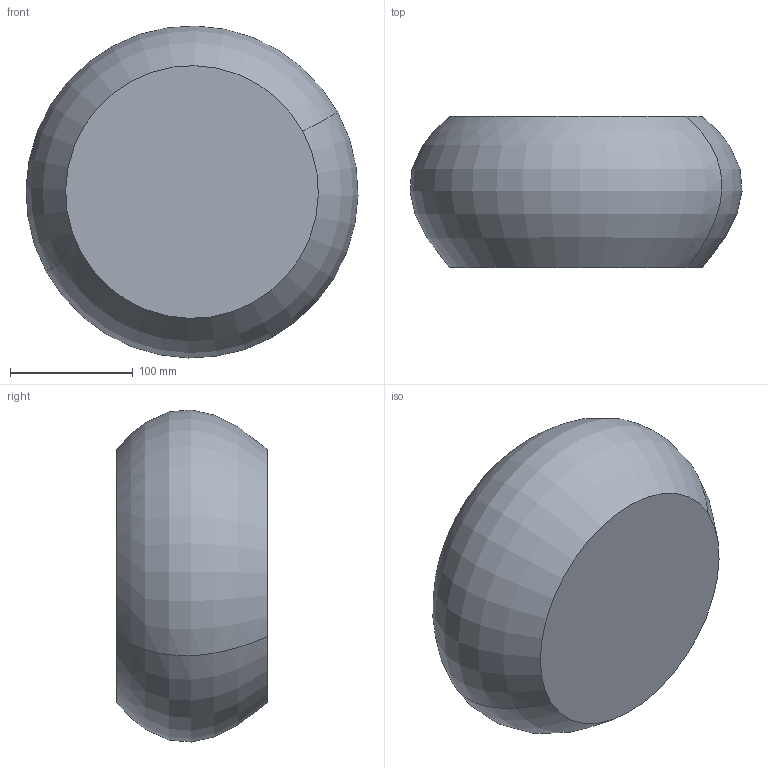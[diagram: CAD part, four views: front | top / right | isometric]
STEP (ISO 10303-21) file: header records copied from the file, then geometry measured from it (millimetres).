
FILE_DESCRIPTION(('CATIA V5 STEP Exchange'),'2;1');
FILE_NAME('C:\_Andres\UNIVERSIDAD\IQS\ASIGNATURAS\DAO\EXF\EXF-15161c\1original\Martínez_Perelló_Ej10-decora_v13.stp','2016-03-04T22:24:12+00:00',('none'),('none'),'CATIA Version 5 Release 20 SP 1 (IN-10)','CATIA V5 STEP AP203','none');
FILE_SCHEMA(('CONFIG_CONTROL_DESIGN'));
Length unit declared in the file: millimetre
Products named in the file (1): Martínez_Perelló_Ej10-decora_v13
Bounding box: 270.6 x 123 x 270.6 mm (x, y, z)
Volume: 6041028.3 mm3; surface area: 177782.6 mm2
Topology: 1 solids, 1 shells, 4 faces, 6 edges, 4 vertices
Faces by surface type: revolution 2, plane 2
Entity records: 166 total; most frequent: CARTESIAN_POINT 50, DIRECTION 12, ORIENTED_EDGE 12, AXIS2_PLACEMENT_3D 8, EDGE_CURVE 6, ADVANCED_FACE 4, B_SPLINE_CURVE_WITH_KNOTS 4, CC_DESIGN_PERSON_AND_ORGANIZATION_ASSIGNMENT 4
